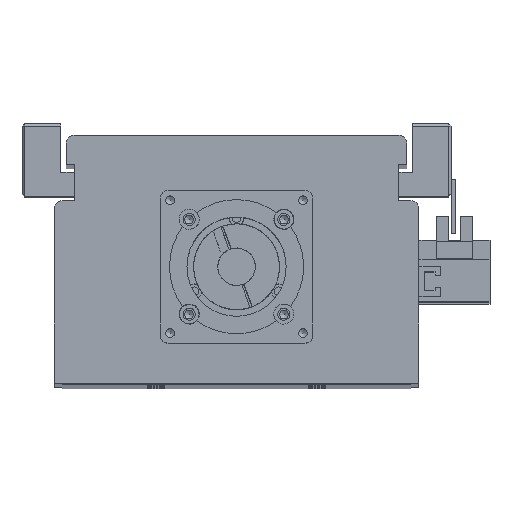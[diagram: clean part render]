
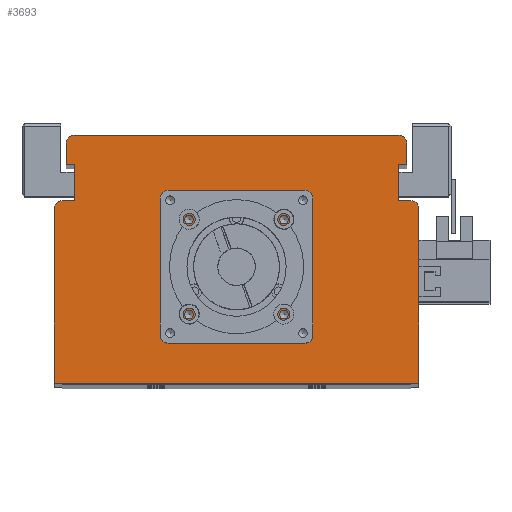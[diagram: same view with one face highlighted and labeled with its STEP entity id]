
A CAD part, top view. The second image highlights one B-rep face of the part: STEP entity #3693.
In plain terms, the highlighted planar face has unit normal (0, 0, 1).
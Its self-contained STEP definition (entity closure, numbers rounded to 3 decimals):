
#2251=CARTESIAN_POINT('',(19.321,61.5,895.0));
#2252=VERTEX_POINT('',#2251);
#2253=CARTESIAN_POINT('',(17.7,61.5,895.0));
#2254=DIRECTION('',(0.0,0.0,-1.0));
#2255=DIRECTION('',(1.0,0.0,0.0));
#2256=AXIS2_PLACEMENT_3D('',#2253,#2254,#2255);
#2257=CIRCLE('',#2256,1.621);
#2258=EDGE_CURVE('',#2252,#2252,#2257,.T.);
#2330=CARTESIAN_POINT('',(19.321,26.1,895.0));
#2331=VERTEX_POINT('',#2330);
#2332=CARTESIAN_POINT('',(17.7,26.1,895.0));
#2333=DIRECTION('',(0.0,0.0,-1.0));
#2334=DIRECTION('',(1.0,0.0,0.0));
#2335=AXIS2_PLACEMENT_3D('',#2332,#2333,#2334);
#2336=CIRCLE('',#2335,1.621);
#2337=EDGE_CURVE('',#2331,#2331,#2336,.T.);
#2409=CARTESIAN_POINT('',(-16.079,26.1,895.0));
#2410=VERTEX_POINT('',#2409);
#2411=CARTESIAN_POINT('',(-17.7,26.1,895.0));
#2412=DIRECTION('',(0.0,0.0,-1.0));
#2413=DIRECTION('',(1.0,0.0,0.0));
#2414=AXIS2_PLACEMENT_3D('',#2411,#2412,#2413);
#2415=CIRCLE('',#2414,1.621);
#2416=EDGE_CURVE('',#2410,#2410,#2415,.T.);
#2488=CARTESIAN_POINT('',(-16.079,61.5,895.0));
#2489=VERTEX_POINT('',#2488);
#2490=CARTESIAN_POINT('',(-17.7,61.5,895.0));
#2491=DIRECTION('',(0.0,0.0,-1.0));
#2492=DIRECTION('',(1.0,0.0,0.0));
#2493=AXIS2_PLACEMENT_3D('',#2490,#2491,#2492);
#2494=CIRCLE('',#2493,1.621);
#2495=EDGE_CURVE('',#2489,#2489,#2494,.T.);
#2529=CARTESIAN_POINT('',(26.5,43.8,895.0));
#2530=VERTEX_POINT('',#2529);
#2531=CARTESIAN_POINT('',(24.5,43.8,895.0));
#2532=DIRECTION('',(0.0,0.0,-1.0));
#2533=DIRECTION('',(1.0,0.0,0.0));
#2534=AXIS2_PLACEMENT_3D('',#2531,#2532,#2533);
#2535=CIRCLE('',#2534,2.0);
#2536=EDGE_CURVE('',#2530,#2530,#2535,.T.);
#2578=CARTESIAN_POINT('',(-22.5,43.8,895.0));
#2579=VERTEX_POINT('',#2578);
#2580=CARTESIAN_POINT('',(-24.5,43.8,895.0));
#2581=DIRECTION('',(0.0,0.0,-1.0));
#2582=DIRECTION('',(1.0,0.0,0.0));
#2583=AXIS2_PLACEMENT_3D('',#2580,#2581,#2582);
#2584=CIRCLE('',#2583,2.0);
#2585=EDGE_CURVE('',#2579,#2579,#2584,.T.);
#3509=CARTESIAN_POINT('',(21.05,43.8,895.0));
#3510=VERTEX_POINT('',#3509);
#3511=CARTESIAN_POINT('',(0.0,43.8,895.0));
#3512=DIRECTION('',(0.0,0.0,-1.0));
#3513=DIRECTION('',(-1.0,0.0,0.0));
#3514=AXIS2_PLACEMENT_3D('',#3511,#3512,#3513);
#3515=CIRCLE('',#3514,21.05);
#3516=EDGE_CURVE('',#3510,#3510,#3515,.T.);
#3533=CARTESIAN_POINT('',(0.,29.533,895.0));
#3534=DIRECTION('',(0.0,0.0,1.0));
#3535=DIRECTION('',(1.0,0.0,0.0));
#3536=AXIS2_PLACEMENT_3D('',#3533,#3534,#3535);
#3537=PLANE('',#3536);
#3538=CARTESIAN_POINT('',(-65.,68.5,895.0));
#3539=VERTEX_POINT('',#3538);
#3540=CARTESIAN_POINT('',(-60.5,68.5,895.0));
#3541=VERTEX_POINT('',#3540);
#3542=CARTESIAN_POINT('',(-65.,68.5,895.0));
#3543=DIRECTION('',(1.0,0.0,0.0));
#3544=VECTOR('',#3543,4.5);
#3545=LINE('',#3542,#3544);
#3546=EDGE_CURVE('',#3539,#3541,#3545,.T.);
#3547=ORIENTED_EDGE('',*,*,#3546,.F.);
#3548=CARTESIAN_POINT('',(-68.,65.5,895.0));
#3549=VERTEX_POINT('',#3548);
#3550=CARTESIAN_POINT('',(-65.,65.5,895.0));
#3551=DIRECTION('',(0.0,0.0,-1.0));
#3552=DIRECTION('',(0.0,1.0,0.0));
#3553=AXIS2_PLACEMENT_3D('',#3550,#3551,#3552);
#3554=CIRCLE('',#3553,3.);
#3555=EDGE_CURVE('',#3549,#3539,#3554,.T.);
#3556=ORIENTED_EDGE('',*,*,#3555,.F.);
#3557=CARTESIAN_POINT('',(-68.0,0.5,895.0));
#3558=VERTEX_POINT('',#3557);
#3559=CARTESIAN_POINT('',(-68.0,0.5,895.0));
#3560=DIRECTION('',(0.0,1.0,0.0));
#3561=VECTOR('',#3560,65.0);
#3562=LINE('',#3559,#3561);
#3563=EDGE_CURVE('',#3558,#3549,#3562,.T.);
#3564=ORIENTED_EDGE('',*,*,#3563,.F.);
#3565=CARTESIAN_POINT('',(68.0,0.5,895.0));
#3566=VERTEX_POINT('',#3565);
#3567=CARTESIAN_POINT('',(68.0,0.5,895.0));
#3568=DIRECTION('',(-1.0,0.0,0.0));
#3569=VECTOR('',#3568,136.0);
#3570=LINE('',#3567,#3569);
#3571=EDGE_CURVE('',#3566,#3558,#3570,.T.);
#3572=ORIENTED_EDGE('',*,*,#3571,.F.);
#3573=CARTESIAN_POINT('',(68.0,65.5,895.0));
#3574=VERTEX_POINT('',#3573);
#3575=CARTESIAN_POINT('',(68.0,65.5,895.0));
#3576=DIRECTION('',(0.0,-1.0,0.0));
#3577=VECTOR('',#3576,65.0);
#3578=LINE('',#3575,#3577);
#3579=EDGE_CURVE('',#3574,#3566,#3578,.T.);
#3580=ORIENTED_EDGE('',*,*,#3579,.F.);
#3581=CARTESIAN_POINT('',(65.,68.5,895.0));
#3582=VERTEX_POINT('',#3581);
#3583=CARTESIAN_POINT('',(65.,65.5,895.0));
#3584=DIRECTION('',(0.0,0.0,-1.0));
#3585=DIRECTION('',(1.0,0.0,0.0));
#3586=AXIS2_PLACEMENT_3D('',#3583,#3584,#3585);
#3587=CIRCLE('',#3586,3.);
#3588=EDGE_CURVE('',#3582,#3574,#3587,.T.);
#3589=ORIENTED_EDGE('',*,*,#3588,.F.);
#3590=CARTESIAN_POINT('',(60.5,68.5,895.0));
#3591=VERTEX_POINT('',#3590);
#3592=CARTESIAN_POINT('',(60.5,68.5,895.0));
#3593=DIRECTION('',(1.0,0.0,0.0));
#3594=VECTOR('',#3593,4.5);
#3595=LINE('',#3592,#3594);
#3596=EDGE_CURVE('',#3591,#3582,#3595,.T.);
#3597=ORIENTED_EDGE('',*,*,#3596,.F.);
#3598=CARTESIAN_POINT('',(60.5,82.,895.));
#3599=VERTEX_POINT('',#3598);
#3600=CARTESIAN_POINT('',(60.5,82.,895.));
#3601=DIRECTION('',(0.0,-1.0,0.0));
#3602=VECTOR('',#3601,13.5);
#3603=LINE('',#3600,#3602);
#3604=EDGE_CURVE('',#3599,#3591,#3603,.T.);
#3605=ORIENTED_EDGE('',*,*,#3604,.F.);
#3606=CARTESIAN_POINT('',(63.5,82.,895.));
#3607=VERTEX_POINT('',#3606);
#3608=CARTESIAN_POINT('',(63.5,82.,895.));
#3609=DIRECTION('',(-1.0,0.0,0.0));
#3610=VECTOR('',#3609,3.0);
#3611=LINE('',#3608,#3610);
#3612=EDGE_CURVE('',#3607,#3599,#3611,.T.);
#3613=ORIENTED_EDGE('',*,*,#3612,.F.);
#3614=CARTESIAN_POINT('',(63.5,90.0,895.));
#3615=VERTEX_POINT('',#3614);
#3616=CARTESIAN_POINT('',(63.5,90.0,895.));
#3617=DIRECTION('',(0.0,-1.0,0.0));
#3618=VECTOR('',#3617,8.);
#3619=LINE('',#3616,#3618);
#3620=EDGE_CURVE('',#3615,#3607,#3619,.T.);
#3621=ORIENTED_EDGE('',*,*,#3620,.F.);
#3622=CARTESIAN_POINT('',(60.5,93.,895.));
#3623=VERTEX_POINT('',#3622);
#3624=CARTESIAN_POINT('',(60.5,90.0,895.0));
#3625=DIRECTION('',(0.0,0.0,-1.0));
#3626=DIRECTION('',(1.0,0.0,0.0));
#3627=AXIS2_PLACEMENT_3D('',#3624,#3625,#3626);
#3628=CIRCLE('',#3627,3.);
#3629=EDGE_CURVE('',#3623,#3615,#3628,.T.);
#3630=ORIENTED_EDGE('',*,*,#3629,.F.);
#3631=CARTESIAN_POINT('',(-60.5,93.0,895.));
#3632=VERTEX_POINT('',#3631);
#3633=CARTESIAN_POINT('',(-60.5,93.0,895.));
#3634=DIRECTION('',(1.0,0.0,0.0));
#3635=VECTOR('',#3634,121.0);
#3636=LINE('',#3633,#3635);
#3637=EDGE_CURVE('',#3632,#3623,#3636,.T.);
#3638=ORIENTED_EDGE('',*,*,#3637,.F.);
#3639=CARTESIAN_POINT('',(-63.5,90.0,895.));
#3640=VERTEX_POINT('',#3639);
#3641=CARTESIAN_POINT('',(-60.5,90.0,895.0));
#3642=DIRECTION('',(0.0,0.0,-1.0));
#3643=DIRECTION('',(0.0,1.0,0.0));
#3644=AXIS2_PLACEMENT_3D('',#3641,#3642,#3643);
#3645=CIRCLE('',#3644,3.);
#3646=EDGE_CURVE('',#3640,#3632,#3645,.T.);
#3647=ORIENTED_EDGE('',*,*,#3646,.F.);
#3648=CARTESIAN_POINT('',(-63.5,82.,895.));
#3649=VERTEX_POINT('',#3648);
#3650=CARTESIAN_POINT('',(-63.5,82.,895.));
#3651=DIRECTION('',(0.0,1.0,0.0));
#3652=VECTOR('',#3651,8.);
#3653=LINE('',#3650,#3652);
#3654=EDGE_CURVE('',#3649,#3640,#3653,.T.);
#3655=ORIENTED_EDGE('',*,*,#3654,.F.);
#3656=CARTESIAN_POINT('',(-60.5,82.,895.));
#3657=VERTEX_POINT('',#3656);
#3658=CARTESIAN_POINT('',(-60.5,82.,895.));
#3659=DIRECTION('',(-1.0,0.0,0.0));
#3660=VECTOR('',#3659,3.);
#3661=LINE('',#3658,#3660);
#3662=EDGE_CURVE('',#3657,#3649,#3661,.T.);
#3663=ORIENTED_EDGE('',*,*,#3662,.F.);
#3664=CARTESIAN_POINT('',(-60.5,68.5,895.0));
#3665=DIRECTION('',(0.0,1.0,0.0));
#3666=VECTOR('',#3665,13.5);
#3667=LINE('',#3664,#3666);
#3668=EDGE_CURVE('',#3541,#3657,#3667,.T.);
#3669=ORIENTED_EDGE('',*,*,#3668,.F.);
#3670=EDGE_LOOP('',(#3547,#3556,#3564,#3572,#3580,#3589,#3597,#3605,#3613,#3621,#3630,#3638,#3647,#3655,#3663,#3669));
#3671=FACE_OUTER_BOUND('',#3670,.T.);
#3672=ORIENTED_EDGE('',*,*,#2258,.T.);
#3673=EDGE_LOOP('',(#3672));
#3674=FACE_BOUND('',#3673,.T.);
#3675=ORIENTED_EDGE('',*,*,#2337,.T.);
#3676=EDGE_LOOP('',(#3675));
#3677=FACE_BOUND('',#3676,.T.);
#3678=ORIENTED_EDGE('',*,*,#2416,.T.);
#3679=EDGE_LOOP('',(#3678));
#3680=FACE_BOUND('',#3679,.T.);
#3681=ORIENTED_EDGE('',*,*,#2495,.T.);
#3682=EDGE_LOOP('',(#3681));
#3683=FACE_BOUND('',#3682,.T.);
#3684=ORIENTED_EDGE('',*,*,#2536,.T.);
#3685=EDGE_LOOP('',(#3684));
#3686=FACE_BOUND('',#3685,.T.);
#3687=ORIENTED_EDGE('',*,*,#2585,.T.);
#3688=EDGE_LOOP('',(#3687));
#3689=FACE_BOUND('',#3688,.T.);
#3690=ORIENTED_EDGE('',*,*,#3516,.T.);
#3691=EDGE_LOOP('',(#3690));
#3692=FACE_BOUND('',#3691,.T.);
#3693=ADVANCED_FACE('',(#3671,#3674,#3677,#3680,#3683,#3686,#3689,#3692),#3537,.T.);
